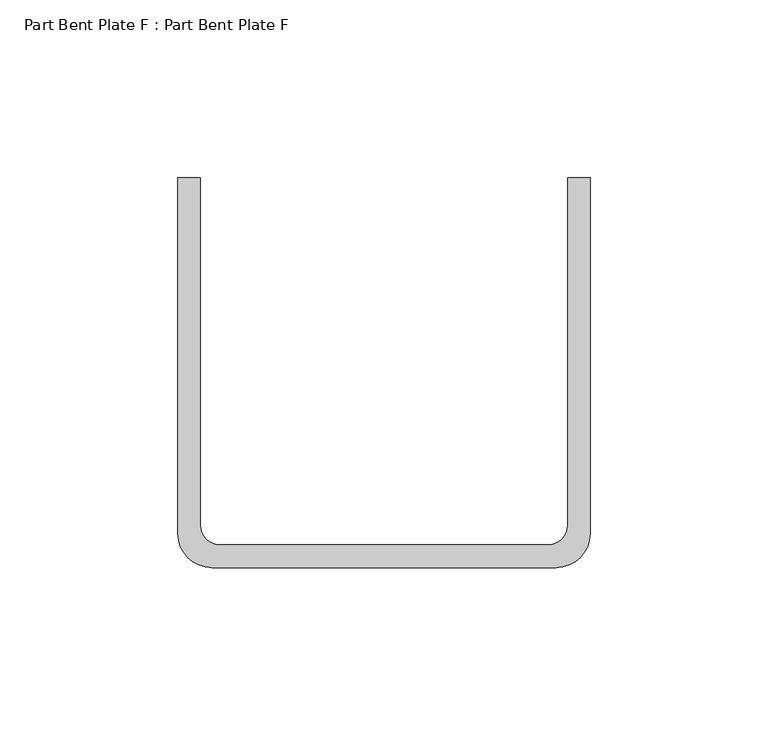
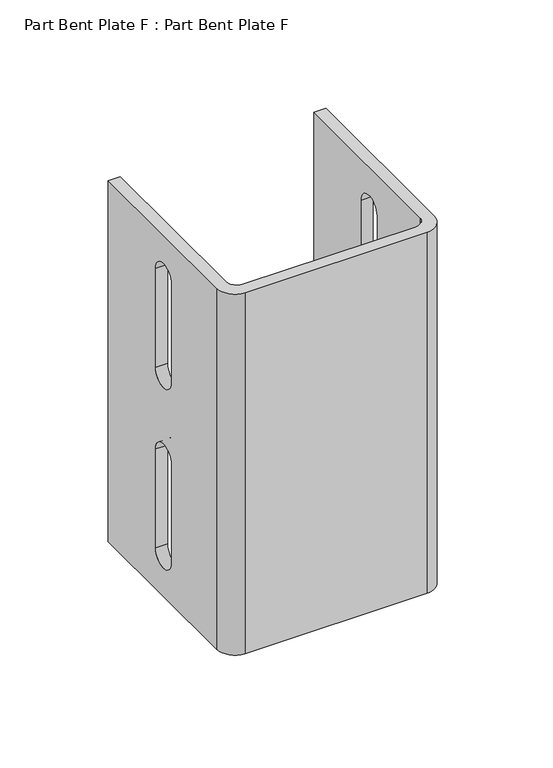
"""IFC4 building model written with IfcOpenShell, lengths in millimetres: proxy geometry, Part Bent Plate F : Part Bent Plate F."""

from ifc_helpers import new_model, si_unit, frame, origin, place, context, project, spatial, polyline, circle_curve, source, transform, mapped, element, save
from ifc_brep_helpers import plane_surface, cylinder_surface, revolved_surface, advanced_brep


def part_bent_plate_f_part_bent_plate_f_7085e637(model_context):
    return source(origin(), model_context, "Body", "AdvancedBrep", [
        advanced_brep(
        [(-57.94375, 54.76875, 203.2), (-57.94375, -45.24375, 203.2), (-48.41875, -54.76875, 203.2), (48.41875, -54.76875, 203.2), (57.94375, -45.24375, 203.2), (57.94375, 54.76875, 203.2), (51.59375, 54.76875, 203.2), (51.59375, -42.8625, 203.2), (46.0375, -48.41875, 203.2), (-46.0375, -48.41875, 203.2), (-51.59375, -42.8625, 203.2), (-51.59375, 54.76875, 203.2), (-57.94375, -45.24375, 0.0), (-57.94375, 54.76875, 0.0), (-51.59375, 54.76875, 0.0), (-51.59375, -42.8625, 0.0), (-46.0375, -48.41875, 0.0), (46.0375, -48.41875, 0.0), (51.59375, -42.8625, 0.0), (51.59375, 54.76875, 0.0), (57.94375, 54.76875, 0.0), (57.94375, -45.24375, 0.0), (48.41875, -54.76875, 0.0), (-48.41875, -54.76875, 0.0), (-57.94375, -3.175, 180.1874249), (-57.94375, -3.175, 124.6125751), (-57.94375, 11.1125, 124.6125751), (-57.94375, 11.1125, 180.1874249), (-57.94375, -3.175, 78.5874249), (-57.94375, -3.175, 23.0125751), (-57.94375, 11.1125, 23.0125751), (-57.94375, 11.1125, 78.5874249), (57.94375, -3.175, 124.6125751), (57.94375, -3.175, 180.1874249), (57.94375, 11.1125, 180.1874249), (57.94375, 11.1125, 124.6125751), (57.94375, -3.175, 23.0125751), (57.94375, -3.175, 78.5874249), (57.94375, 11.1125, 78.5874249), (57.94375, 11.1125, 23.0125751), (51.59375, -3.175, 180.1874249), (51.59375, -3.175, 124.6125751), (51.59375, 11.1125, 124.6125751), (51.59375, 11.1125, 180.1874249), (51.59375, -3.175, 78.5874249), (51.59375, -3.175, 23.0125751), (51.59375, 11.1125, 23.0125751), (51.59375, 11.1125, 78.5874249), (-51.59375, -3.175, 124.6125751), (-51.59375, -3.175, 180.1874249), (-51.59375, 11.1125, 180.1874249), (-51.59375, 11.1125, 124.6125751), (-51.59375, -3.175, 23.0125751), (-51.59375, -3.175, 78.5874249), (-51.59375, 11.1125, 78.5874249), (-51.59375, 11.1125, 23.0125751)],
        [
            (0, 1),
            (1, 2, circle_curve(frame((-48.41875, -45.24375, 203.2), z_axis=(0.0, 0.0, 1.0), x_axis=(1.0, 0.0, 0.0)), 9.525)),
            (2, 3),
            (3, 4, circle_curve(frame((48.41875, -45.24375, 203.2), z_axis=(0.0, 0.0, 1.0), x_axis=(1.0, 0.0, 0.0)), 9.525)),
            (4, 5),
            (5, 6),
            (6, 7),
            (7, 8, circle_curve(frame((46.0375, -42.8625, 203.2), z_axis=(0.0, 0.0, -1.0), x_axis=(1.0, 0.0, 0.0)), 5.55625)),
            (8, 9),
            (9, 10, circle_curve(frame((-46.0375, -42.8625, 203.2), z_axis=(0.0, 0.0, -1.0), x_axis=(1.0, 0.0, 0.0)), 5.55625)),
            (10, 11),
            (11, 0),
            (12, 13),
            (13, 14),
            (14, 15),
            (15, 16, circle_curve(frame((-46.0375, -42.8625, 0.0), z_axis=(0.0, 0.0, 1.0), x_axis=(1.0, 0.0, 0.0)), 5.55625)),
            (16, 17),
            (17, 18, circle_curve(frame((46.0375, -42.8625, 0.0), z_axis=(0.0, 0.0, 1.0), x_axis=(1.0, 0.0, 0.0)), 5.55625)),
            (18, 19),
            (19, 20),
            (20, 21),
            (21, 22, circle_curve(frame((48.41875, -45.24375, 0.0), z_axis=(0.0, 0.0, -1.0), x_axis=(1.0, 0.0, 0.0)), 9.525)),
            (22, 23),
            (23, 12, circle_curve(frame((-48.41875, -45.24375, 0.0), z_axis=(0.0, 0.0, -1.0), x_axis=(1.0, 0.0, 0.0)), 9.525)),
            (0, 13),
            (12, 1),
            (24, 25),
            (25, 26, circle_curve(frame((-57.94375, 3.96875, 124.6125751), z_axis=(1.0, 0.0, 0.0), x_axis=(0.0, -1.0, 0.0)), 7.14375)),
            (26, 27),
            (27, 24, circle_curve(frame((-57.94375, 3.96875, 180.1874249), z_axis=(1.0, 0.0, 0.0), x_axis=(0.0, -1.0, 0.0)), 7.14375)),
            (28, 29),
            (29, 30, circle_curve(frame((-57.94375, 3.96875, 23.0125751), z_axis=(1.0, 0.0, 0.0), x_axis=(0.0, -1.0, 0.0)), 7.14375)),
            (30, 31),
            (31, 28, circle_curve(frame((-57.94375, 3.96875, 78.5874249), z_axis=(1.0, 0.0, 0.0), x_axis=(0.0, -1.0, 0.0)), 7.14375)),
            (23, 2),
            (22, 3),
            (21, 4),
            (20, 5),
            (32, 33),
            (33, 34, circle_curve(frame((57.94375, 3.96875, 180.1874249), z_axis=(-1.0, 0.0, 0.0), x_axis=(0.0, -1.0, 0.0)), 7.14375)),
            (34, 35),
            (35, 32, circle_curve(frame((57.94375, 3.96875, 124.6125751), z_axis=(-1.0, 0.0, 0.0), x_axis=(0.0, -1.0, 0.0)), 7.14375)),
            (36, 37),
            (37, 38, circle_curve(frame((57.94375, 3.96875, 78.5874249), z_axis=(-1.0, 0.0, 0.0), x_axis=(0.0, -1.0, 0.0)), 7.14375)),
            (38, 39),
            (39, 36, circle_curve(frame((57.94375, 3.96875, 23.0125751), z_axis=(-1.0, 0.0, 0.0), x_axis=(0.0, -1.0, 0.0)), 7.14375)),
            (6, 19),
            (18, 7),
            (40, 41),
            (41, 42, circle_curve(frame((51.59375, 3.96875, 124.6125751), z_axis=(1.0, 0.0, 0.0), x_axis=(0.0, -1.0, 0.0)), 7.14375)),
            (42, 43),
            (43, 40, circle_curve(frame((51.59375, 3.96875, 180.1874249), z_axis=(1.0, 0.0, 0.0), x_axis=(0.0, -1.0, 0.0)), 7.14375)),
            (44, 45),
            (45, 46, circle_curve(frame((51.59375, 3.96875, 23.0125751), z_axis=(1.0, 0.0, 0.0), x_axis=(0.0, -1.0, 0.0)), 7.14375)),
            (46, 47),
            (47, 44, circle_curve(frame((51.59375, 3.96875, 78.5874249), z_axis=(1.0, 0.0, 0.0), x_axis=(0.0, -1.0, 0.0)), 7.14375)),
            (17, 8),
            (16, 9),
            (15, 10),
            (14, 11),
            (48, 49),
            (49, 50, circle_curve(frame((-51.59375, 3.96875, 180.1874249), z_axis=(-1.0, 0.0, 0.0), x_axis=(0.0, -1.0, 0.0)), 7.14375)),
            (50, 51),
            (51, 48, circle_curve(frame((-51.59375, 3.96875, 124.6125751), z_axis=(-1.0, 0.0, 0.0), x_axis=(0.0, -1.0, 0.0)), 7.14375)),
            (52, 53),
            (53, 54, circle_curve(frame((-51.59375, 3.96875, 78.5874249), z_axis=(-1.0, 0.0, 0.0), x_axis=(0.0, -1.0, 0.0)), 7.14375)),
            (54, 55),
            (55, 52, circle_curve(frame((-51.59375, 3.96875, 23.0125751), z_axis=(-1.0, 0.0, 0.0), x_axis=(0.0, -1.0, 0.0)), 7.14375)),
            (24, 49),
            (48, 25),
            (27, 50),
            (26, 51),
            (32, 41),
            (40, 33),
            (35, 42),
            (34, 43),
            (44, 37),
            (36, 45),
            (39, 46),
            (38, 47),
            (52, 29),
            (28, 53),
            (31, 54),
            (30, 55),
        ],
        [
            plane_surface(frame((-38.89375, -45.24375, 203.2), z_axis=(0.0, 0.0, 1.0), x_axis=(0.0, 1.0, 0.0))),
            plane_surface(frame((-38.89375, -45.24375, 0.0), z_axis=(0.0, 0.0, -1.0), x_axis=(0.0, -1.0, 0.0))),
            plane_surface(frame((-57.94375, 54.76875, 203.2), z_axis=(-1.0, 0.0, 0.0), x_axis=(0.0, 0.0, -1.0))),
            cylinder_surface(frame((-48.41875, -45.24375, 0.0), z_axis=(0.0, 0.0, 1.0), x_axis=(1.0, 0.0, 0.0)), 9.525),
            plane_surface(frame((-48.41875, -54.76875, 203.2), z_axis=(0.0, -1.0, 0.0), x_axis=(0.0, 0.0, -1.0))),
            cylinder_surface(frame((48.41875, -45.24375, 0.0), z_axis=(0.0, 0.0, 1.0), x_axis=(1.0, 0.0, 0.0)), 9.525),
            plane_surface(frame((57.94375, -45.24375, 203.2), z_axis=(1.0, 0.0, 0.0), x_axis=(0.0, 0.0, -1.0))),
            plane_surface(frame((51.59375, 54.76875, 203.2), z_axis=(-1.0, 0.0, 0.0), x_axis=(0.0, 0.0, -1.0))),
            revolved_surface(polyline([(51.59375, -42.8625, 0.0), (51.59375, -42.8625, 203.2)]), (46.0375, -42.8625, 0.0), (0.0, 0.0, -1.0)),
            plane_surface(frame((46.0375, -48.41875, 203.2), z_axis=(0.0, 1.0, 0.0), x_axis=(0.0, 0.0, -1.0))),
            revolved_surface(polyline([(-40.48125, -42.8625, 0.0), (-40.48125, -42.8625, 203.2)]), (-46.0375, -42.8625, 0.0), (0.0, 0.0, -1.0)),
            plane_surface(frame((-51.59375, -42.8625, 203.2), z_axis=(1.0, 0.0, 0.0), x_axis=(0.0, 0.0, -1.0))),
            plane_surface(frame((57.94375, 54.76875, 203.2), z_axis=(0.0, 1.0, 0.0), x_axis=(0.0, 0.0, -1.0))),
            plane_surface(frame((-51.59375, 54.76875, 203.2), z_axis=(0.0, 1.0, 0.0), x_axis=(0.0, 0.0, -1.0))),
            plane_surface(frame((-61.11875, -3.175, 124.6125751), z_axis=(0.0, 1.0, 0.0), x_axis=(1.0, 0.0, 0.0))),
            revolved_surface(polyline([(-57.94375, -3.175, 180.1874249), (-51.59375, -3.175, 180.1874249)]), (-51.59375, 3.96875, 180.1874249), (-1.0, 0.0, 0.0)),
            plane_surface(frame((-61.11875, 11.1125, 180.1874249), z_axis=(0.0, -1.0, 0.0), x_axis=(1.0, 0.0, 0.0))),
            revolved_surface(polyline([(-57.94375, -3.175, 124.6125751), (-51.59375, -3.175, 124.6125751)]), (-51.59375, 3.96875, 124.6125751), (-1.0, 0.0, 0.0)),
            plane_surface(frame((61.11875, -3.175, 180.1874249), z_axis=(0.0, 1.0, 0.0), x_axis=(-1.0, 0.0, 0.0))),
            revolved_surface(polyline([(57.94375, -3.175, 124.6125751), (51.59375, -3.175, 124.6125751)]), (51.59375, 3.96875, 124.6125751), (1.0, 0.0, 0.0)),
            plane_surface(frame((61.11875, 11.1125, 124.6125751), z_axis=(0.0, -1.0, 0.0), x_axis=(-1.0, 0.0, 0.0))),
            revolved_surface(polyline([(57.94375, -3.175, 180.1874249), (51.59375, -3.175, 180.1874249)]), (51.59375, 3.96875, 180.1874249), (1.0, 0.0, 0.0)),
            plane_surface(frame((61.11875, -3.175, 78.5874249), z_axis=(0.0, 1.0, 0.0), x_axis=(-1.0, 0.0, 0.0))),
            revolved_surface(polyline([(57.94375, -3.175, 23.0125751), (51.59375, -3.175, 23.0125751)]), (51.59375, 3.96875, 23.0125751), (1.0, 0.0, 0.0)),
            plane_surface(frame((61.11875, 11.1125, 23.0125751), z_axis=(0.0, -1.0, 0.0), x_axis=(-1.0, 0.0, 0.0))),
            revolved_surface(polyline([(57.94375, -3.175, 78.5874249), (51.59375, -3.175, 78.5874249)]), (51.59375, 3.96875, 78.5874249), (1.0, 0.0, 0.0)),
            plane_surface(frame((-61.11875, -3.175, 23.0125751), z_axis=(0.0, 1.0, 0.0), x_axis=(1.0, 0.0, 0.0))),
            revolved_surface(polyline([(-57.94375, -3.175, 78.5874249), (-51.59375, -3.175, 78.5874249)]), (-51.59375, 3.96875, 78.5874249), (-1.0, 0.0, 0.0)),
            plane_surface(frame((-61.11875, 11.1125, 78.5874249), z_axis=(0.0, -1.0, 0.0), x_axis=(1.0, 0.0, 0.0))),
            revolved_surface(polyline([(-57.94375, -3.175, 23.0125751), (-51.59375, -3.175, 23.0125751)]), (-51.59375, 3.96875, 23.0125751), (-1.0, 0.0, 0.0)),
        ],
        [
            (0, [[1, 2, 3, 4, 5, 6, 7, 8, 9, 10, 11, 12]]),
            (1, [[13, 14, 15, 16, 17, 18, 19, 20, 21, 22, 23, 24]]),
            (2, [[-1, 25, -13, 26], [27, 28, 29, 30], [31, 32, 33, 34]]),
            (3, [[-2, -26, -24, 35]]),
            (4, [[-3, -35, -23, 36]]),
            (5, [[-4, -36, -22, 37]]),
            (6, [[-5, -37, -21, 38], [39, 40, 41, 42], [43, 44, 45, 46]]),
            (7, [[-7, 47, -19, 48], [49, 50, 51, 52], [53, 54, 55, 56]]),
            (8, [[-8, -48, -18, 57]]),
            (9, [[-9, -57, -17, 58]]),
            (10, [[-10, -58, -16, 59]]),
            (11, [[-11, -59, -15, 60], [61, 62, 63, 64], [65, 66, 67, 68]]),
            (12, [[-6, -38, -20, -47]]),
            (13, [[-12, -60, -14, -25]]),
            (14, [[69, -61, 70, -27]]),
            (15, [[-69, -30, 71, -62]]),
            (16, [[72, -63, -71, -29]]),
            (17, [[-70, -64, -72, -28]]),
            (18, [[73, -49, 74, -39]]),
            (19, [[-73, -42, 75, -50]]),
            (20, [[76, -51, -75, -41]]),
            (21, [[-74, -52, -76, -40]]),
            (22, [[77, -43, 78, -53]]),
            (23, [[-78, -46, 79, -54]]),
            (24, [[-79, -45, 80, -55]]),
            (25, [[-77, -56, -80, -44]]),
            (26, [[81, -31, 82, -65]]),
            (27, [[-82, -34, 83, -66]]),
            (28, [[-83, -33, 84, -67]]),
            (29, [[-81, -68, -84, -32]]),
        ],
    ),
    ])


if __name__ == "__main__":
    model = new_model("IFC4")
    model_context = context("Model", 3, world=origin())
    ifc_project = project(units=[si_unit("LENGTHUNIT", "METRE", prefix="MILLI")], contexts=[model_context])
    site = spatial("IfcSite", under=ifc_project)
    building = spatial("IfcBuilding", under=site)
    placement = place(None, origin())
    part_bent_plate_f_part_bent_plate_f_shape = part_bent_plate_f_part_bent_plate_f_7085e637(model_context)
    element("IfcBuildingElementProxy", 1, Name="Part Bent Plate F : Part Bent Plate F", ObjectType="Part Bent Plate F : Part Bent Plate F", at=placement, inside=building, context=model_context, shape_type="MappedRepresentation", body=[
        mapped(part_bent_plate_f_part_bent_plate_f_shape, transform((0.0, 0.0, 0.0), x_axis=(1.0, 0.0, 0.0), y_axis=(0.0, 1.0, 0.0), z_axis=(0.0, 0.0, 1.0))),
    ])
    save(model, "model.ifc")
